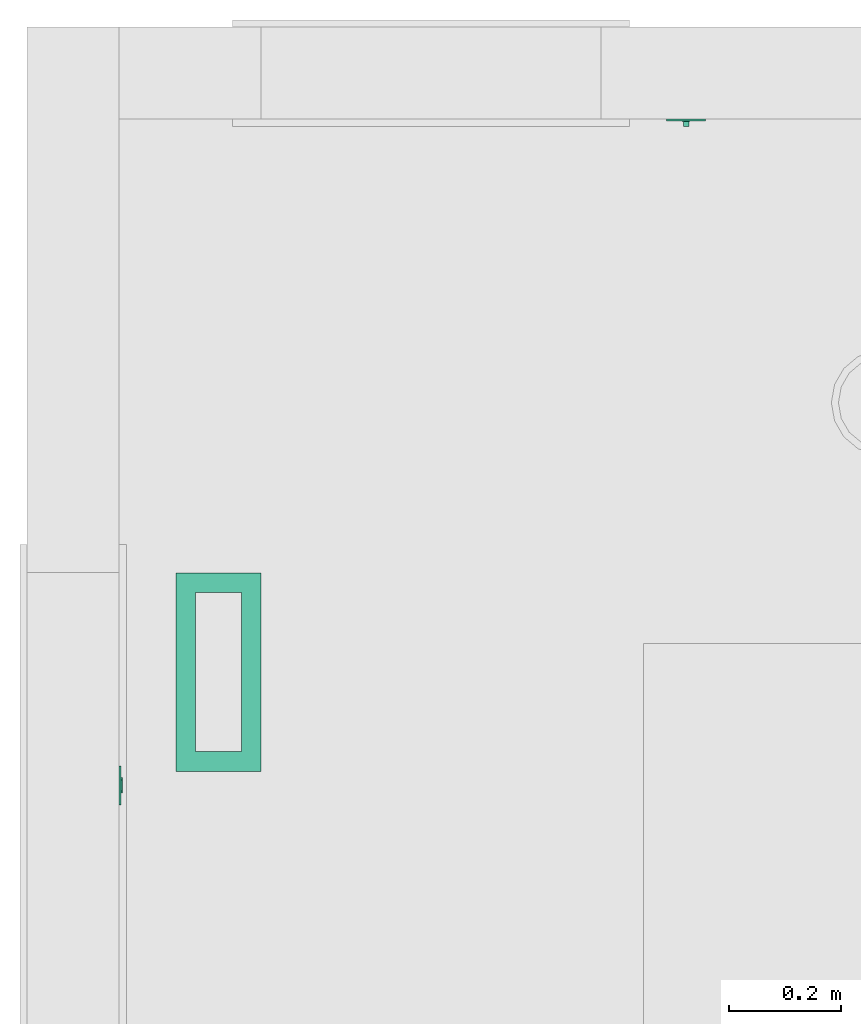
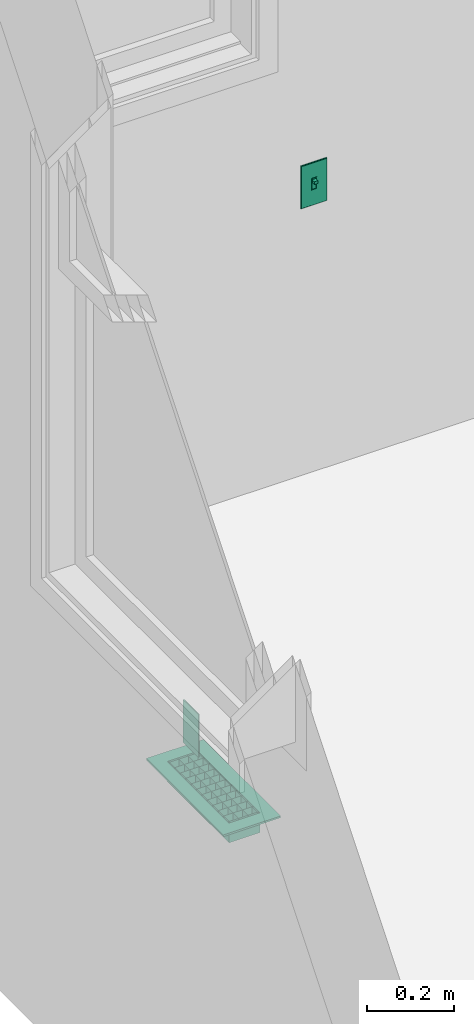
# One storey, part 24 of 103: 2 flow controllers, 1 distribution flow element.
"""IFC2X3 building model written with IfcOpenShell, lengths in inches."""

from ifc_helpers import new_model, entity, si_unit, converted_unit, derived_unit, money_unit, direction, frame, origin_with_axes, place, context, subcontext, project, spatial, open_shell, faceted_brep, surface_model, source, transform, mapped, type_object, element, save


model = new_model("IFC2X3")

# Units and contexts
model_context = context("Model", 3, precision=0.00039370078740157, world=origin_with_axes(), true_north=direction((0.0, 1.0)))
plan_context = context("Plan", 3, precision=0.00039370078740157, world=origin_with_axes(), true_north=direction((0.0, 1.0)))
body_context = subcontext(model_context, "Body", "Model", "MODEL_VIEW")
ifc_project = project(units=[converted_unit("LENGTHUNIT", "INCH", entity("IfcPositiveLengthMeasure", 0.0254), si_unit("LENGTHUNIT", "METRE"), dimensions=[1, 0, 0, 0, 0, 0, 0]), converted_unit("AREAUNIT", "SQUARE_FOOT", entity("IfcPositiveLengthMeasure", 0.09290304), si_unit("AREAUNIT", "SQUARE_METRE"), dimensions=[2, 0, 0, 0, 0, 0, 0]), si_unit("PLANEANGLEUNIT", "RADIAN"), si_unit("SOLIDANGLEUNIT", "STERADIAN"), money_unit("USD"), converted_unit("TIMEUNIT", "Year", entity("IfcTimeMeasure", 31557600.0), si_unit("TIMEUNIT", "SECOND"), dimensions=[0, 0, 1, 0, 0, 0, 0]), si_unit("MASSUNIT", "GRAM", prefix="KILO"), si_unit("THERMODYNAMICTEMPERATUREUNIT", "DEGREE_CELSIUS"), si_unit("LUMINOUSINTENSITYUNIT", "LUMEN"), si_unit("ENERGYUNIT", "JOULE", prefix="MEGA"), derived_unit("SPECIFICHEATCAPACITYUNIT", [(si_unit("ENERGYUNIT", "JOULE"), 1), (si_unit("MASSUNIT", "GRAM", prefix="KILO"), -1), (si_unit("THERMODYNAMICTEMPERATUREUNIT", "KELVIN"), -1)])], contexts=[model_context, plan_context])

# Site, building, storey
site_placement = place(None, origin_with_axes())
site = spatial("IfcSite", under=ifc_project, at=site_placement, Name="Site", CompositionType="ELEMENT")
building_placement = place(site_placement, origin_with_axes())
building = spatial("IfcBuilding", under=site, at=building_placement, Name="Building", CompositionType="ELEMENT")
storey_placement = place(building_placement, frame((0.0, 0.0, 127.9999999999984), z_axis=(0.0, 0.0, 1.0), x_axis=(1.0, 0.0, 0.0)))
storey = spatial("IfcBuildingStorey", under=building, at=storey_placement, Name="Second Floor", CompositionType="ELEMENT", Elevation=128.0)

# Flow controllers
switching_device_type_1 = type_object("IfcSwitchingDeviceType", Name="Outlet 1 US", PredefinedType="NOTDEFINED")
shared_shape_1 = source(origin_with_axes(), body_context, "Body", "Brep", [
    faceted_brep([(0.39370078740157, -0.03444881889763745, -1.18110236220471), (0.5436477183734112, -0.03444881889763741, -0.7086614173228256), (0.5436477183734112, -0.2165354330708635, -0.7086614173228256), (0.39370078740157, -0.2165354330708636, -1.18110236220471), (-0.3937007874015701, -0.03444881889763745, -1.181102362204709), (-0.543647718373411, -0.03444881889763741, -0.7086614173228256), (-0.39370078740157, -0.03444881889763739, -0.2362204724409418), (0.3937007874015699, -0.03444881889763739, -0.2362204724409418), (-0.196850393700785, -0.03444881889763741, -0.7086614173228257), (-0.196850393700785, -0.0344488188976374, -0.4724409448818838), (-0.275590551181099, -0.0344488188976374, -0.4724409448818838), (-0.275590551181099, -0.03444881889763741, -0.7086614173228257), (0.196850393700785, -0.03444881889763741, -0.7086614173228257), (0.275590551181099, -0.03444881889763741, -0.7086614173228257), (0.275590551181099, -0.0344488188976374, -0.4724409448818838), (0.196850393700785, -0.0344488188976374, -0.4724409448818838), (-0.078740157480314, -0.03444881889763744, -1.102362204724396), (0.078740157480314, -0.03444881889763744, -1.102362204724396), (0.078740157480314, -0.03444881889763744, -1.023622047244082), (0.06819097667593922, -0.03444881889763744, -0.9842519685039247), (0.03937007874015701, -0.03444881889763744, -0.9554310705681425), (0.0, -0.03444881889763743, -0.9448818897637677), (-0.03937007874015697, -0.03444881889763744, -0.9554310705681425), (-0.06819097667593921, -0.03444881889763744, -0.9842519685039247), (-0.078740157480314, -0.03444881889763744, -1.023622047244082), (0.3937007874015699, -0.2165354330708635, -0.2362204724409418), (-0.39370078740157, -0.2165354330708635, -0.2362204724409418), (-0.543647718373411, -0.2165354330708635, -0.7086614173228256), (-0.3937007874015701, -0.2165354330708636, -1.181102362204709), (-0.196850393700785, -0.2165354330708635, -0.7086614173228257), (-0.275590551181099, -0.2165354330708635, -0.7086614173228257), (-0.275590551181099, -0.2165354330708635, -0.4724409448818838), (-0.196850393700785, -0.2165354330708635, -0.4724409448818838), (0.196850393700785, -0.2165354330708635, -0.7086614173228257), (0.196850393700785, -0.2165354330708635, -0.4724409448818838), (0.275590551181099, -0.2165354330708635, -0.4724409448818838), (0.275590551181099, -0.2165354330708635, -0.7086614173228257), (-0.078740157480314, -0.2165354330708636, -1.102362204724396), (-0.078740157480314, -0.2165354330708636, -1.023622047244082), (-0.06819097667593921, -0.2165354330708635, -0.9842519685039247), (-0.03937007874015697, -0.2165354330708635, -0.9554310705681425), (0.0, -0.2165354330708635, -0.9448818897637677), (0.03937007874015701, -0.2165354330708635, -0.9554310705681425), (0.06819097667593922, -0.2165354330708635, -0.9842519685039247), (0.078740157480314, -0.2165354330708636, -1.023622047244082), (0.078740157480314, -0.2165354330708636, -1.102362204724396)], [[[0, 1, 2, 3]], [[0, 4, 5, 6, 7, 1], [8, 9, 10, 11], [12, 13, 14, 15], [16, 17, 18, 19, 20, 21, 22, 23, 24]], [[1, 7, 25, 2]], [[3, 2, 25, 26, 27, 28], [29, 30, 31, 32], [33, 34, 35, 36], [37, 38, 39, 40, 41, 42, 43, 44, 45]], [[4, 0, 3, 28]], [[5, 4, 28, 27]], [[6, 5, 27, 26]], [[7, 6, 26, 25]], [[9, 8, 29, 32]], [[10, 9, 32, 31]], [[11, 10, 31, 30]], [[8, 11, 30, 29]], [[13, 12, 33, 36]], [[14, 13, 36, 35]], [[15, 14, 35, 34]], [[12, 15, 34, 33]], [[17, 16, 37, 45]], [[18, 17, 45, 44]], [[19, 18, 44, 43]], [[20, 19, 43, 42]], [[21, 20, 42, 41]], [[22, 21, 41, 40]], [[23, 22, 40, 39]], [[24, 23, 39, 38]], [[16, 24, 38, 37]]]),
    faceted_brep([(0.39370078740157, -0.03444881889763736, 0.2362204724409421), (0.5436477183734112, -0.03444881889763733, 0.7086614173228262), (0.5436477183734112, -0.2165354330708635, 0.7086614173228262), (0.39370078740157, -0.2165354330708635, 0.2362204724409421), (-0.3937007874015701, -0.03444881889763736, 0.2362204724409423), (-0.543647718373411, -0.03444881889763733, 0.7086614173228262), (-0.39370078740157, -0.0344488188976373, 1.18110236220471), (0.3937007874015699, -0.0344488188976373, 1.18110236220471), (-0.196850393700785, -0.03444881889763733, 0.7086614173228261), (-0.196850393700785, -0.03444881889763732, 0.944881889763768), (-0.275590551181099, -0.03444881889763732, 0.944881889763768), (-0.275590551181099, -0.03444881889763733, 0.7086614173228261), (0.196850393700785, -0.03444881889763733, 0.7086614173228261), (0.275590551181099, -0.03444881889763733, 0.7086614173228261), (0.275590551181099, -0.03444881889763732, 0.944881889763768), (0.196850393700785, -0.03444881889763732, 0.944881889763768), (-0.078740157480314, -0.03444881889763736, 0.3149606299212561), (0.078740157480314, -0.03444881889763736, 0.3149606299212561), (0.078740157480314, -0.03444881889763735, 0.3937007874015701), (0.06819097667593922, -0.03444881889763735, 0.4330708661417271), (0.03937007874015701, -0.03444881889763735, 0.4618917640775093), (0.0, -0.03444881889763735, 0.472440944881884), (-0.03937007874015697, -0.03444881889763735, 0.4618917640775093), (-0.06819097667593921, -0.03444881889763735, 0.4330708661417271), (-0.078740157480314, -0.03444881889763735, 0.3937007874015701), (0.3937007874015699, -0.2165354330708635, 1.18110236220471), (-0.39370078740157, -0.2165354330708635, 1.18110236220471), (-0.543647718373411, -0.2165354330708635, 0.7086614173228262), (-0.3937007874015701, -0.2165354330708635, 0.2362204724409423), (-0.196850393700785, -0.2165354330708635, 0.7086614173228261), (-0.275590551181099, -0.2165354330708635, 0.7086614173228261), (-0.275590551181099, -0.2165354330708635, 0.944881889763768), (-0.196850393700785, -0.2165354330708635, 0.944881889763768), (0.196850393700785, -0.2165354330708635, 0.7086614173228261), (0.196850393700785, -0.2165354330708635, 0.944881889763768), (0.275590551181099, -0.2165354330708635, 0.944881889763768), (0.275590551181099, -0.2165354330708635, 0.7086614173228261), (-0.078740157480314, -0.2165354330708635, 0.3149606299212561), (-0.078740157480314, -0.2165354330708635, 0.3937007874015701), (-0.06819097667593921, -0.2165354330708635, 0.4330708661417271), (-0.03937007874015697, -0.2165354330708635, 0.4618917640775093), (0.0, -0.2165354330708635, 0.472440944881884), (0.03937007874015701, -0.2165354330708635, 0.4618917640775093), (0.06819097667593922, -0.2165354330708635, 0.4330708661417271), (0.078740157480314, -0.2165354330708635, 0.3937007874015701), (0.078740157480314, -0.2165354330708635, 0.3149606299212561)], [[[0, 1, 2, 3]], [[0, 4, 5, 6, 7, 1], [8, 9, 10, 11], [12, 13, 14, 15], [16, 17, 18, 19, 20, 21, 22, 23, 24]], [[1, 7, 25, 2]], [[3, 2, 25, 26, 27, 28], [29, 30, 31, 32], [33, 34, 35, 36], [37, 38, 39, 40, 41, 42, 43, 44, 45]], [[4, 0, 3, 28]], [[5, 4, 28, 27]], [[6, 5, 27, 26]], [[7, 6, 26, 25]], [[9, 8, 29, 32]], [[10, 9, 32, 31]], [[11, 10, 31, 30]], [[8, 11, 30, 29]], [[13, 12, 33, 36]], [[14, 13, 36, 35]], [[15, 14, 35, 34]], [[12, 15, 34, 33]], [[17, 16, 37, 45]], [[18, 17, 45, 44]], [[19, 18, 44, 43]], [[20, 19, 43, 42]], [[21, 20, 42, 41]], [[22, 21, 41, 40]], [[23, 22, 40, 39]], [[24, 23, 39, 38]], [[16, 24, 38, 37]]]),
    faceted_brep([(-1.343503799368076, -0.1377952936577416, -2.327755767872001), (1.343503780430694, -0.1377952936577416, -2.327755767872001), (1.343503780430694, -0.1377952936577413, 2.327755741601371), (-1.343503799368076, -0.1377952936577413, 2.327755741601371), (0.39370078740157, -0.1377952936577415, -1.18110236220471), (-0.3937007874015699, -0.1377952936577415, -1.181102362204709), (-0.5436477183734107, -0.1377952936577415, -0.7086614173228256), (-0.39370078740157, -0.1377952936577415, -0.2362204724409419), (0.3937007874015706, -0.1377952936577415, -0.2362204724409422), (0.5436477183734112, -0.1377952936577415, -0.7086614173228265), (-0.39370078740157, -0.1377952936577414, 1.18110236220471), (0.3937007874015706, -0.1377952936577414, 1.18110236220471), (0.5436477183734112, -0.1377952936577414, 0.7086614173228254), (0.39370078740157, -0.1377952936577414, 0.236220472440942), (-0.3937007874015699, -0.1377952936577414, 0.2362204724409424), (-0.5436477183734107, -0.1377952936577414, 0.7086614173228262), (-1.352419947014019, -0.1366214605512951, -2.336671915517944), (1.352419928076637, -0.1366214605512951, -2.336671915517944), (1.352419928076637, -0.1366214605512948, 2.336671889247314), (-1.352419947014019, -0.1366214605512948, 2.336671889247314), (0.39370078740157, -0.03444881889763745, -1.18110236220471), (-0.3937007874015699, -0.03444881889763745, -1.181102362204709), (-0.5436477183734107, -0.03444881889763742, -0.7086614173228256), (-0.39370078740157, -0.03444881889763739, -0.2362204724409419), (0.3937007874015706, -0.03444881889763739, -0.2362204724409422), (0.5436477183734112, -0.03444881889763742, -0.7086614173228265), (-0.39370078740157, -0.0344488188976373, 1.18110236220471), (0.3937007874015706, -0.0344488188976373, 1.18110236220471), (0.5436477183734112, -0.03444881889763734, 0.7086614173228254), (0.39370078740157, -0.03444881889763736, 0.236220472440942), (-0.3937007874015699, -0.03444881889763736, 0.2362204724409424), (-0.5436477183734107, -0.03444881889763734, 0.7086614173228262), (-1.36786294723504, -0.1277054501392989, -2.352114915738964), (1.367862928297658, -0.1277054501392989, -2.352114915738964), (1.367862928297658, -0.1277054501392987, 2.352114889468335), (-1.36786294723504, -0.1277054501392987, 2.352114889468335), (-1.376778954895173, -0.1122624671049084, -2.361030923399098), (1.376778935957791, -0.1122624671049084, -2.361030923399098), (1.376778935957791, -0.1122624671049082, 2.361030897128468), (-1.376778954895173, -0.1122624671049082, 2.361030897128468), (-1.377952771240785, -0.1033464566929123, -2.362204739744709), (1.377952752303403, -0.1033464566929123, -2.362204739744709), (1.377952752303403, -0.103346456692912, 2.36220471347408), (-1.377952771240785, -0.103346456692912, 2.36220471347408), (-1.377952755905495, 0.0, -2.36220472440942), (1.377952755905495, 0.0, -2.36220472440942), (1.377952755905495, 0.0, 2.36220472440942), (-1.377952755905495, 0.0, 2.36220472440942)], [[[0, 1, 2, 3], [4, 5, 6, 7, 8, 9], [10, 11, 12, 13, 14, 15]], [[1, 0, 16, 17]], [[2, 1, 17, 18]], [[3, 2, 18, 19]], [[0, 3, 19, 16]], [[4, 20, 21, 5]], [[5, 21, 22, 6]], [[6, 22, 23, 7]], [[7, 23, 24, 8]], [[8, 24, 25, 9]], [[9, 25, 20, 4]], [[11, 10, 26, 27]], [[12, 11, 27, 28]], [[13, 12, 28, 29]], [[14, 13, 29, 30]], [[15, 14, 30, 31]], [[10, 15, 31, 26]], [[17, 16, 32, 33]], [[18, 17, 33, 34]], [[19, 18, 34, 35]], [[16, 19, 35, 32]], [[22, 21, 20, 25, 24, 23]], [[28, 27, 26, 31, 30, 29]], [[33, 32, 36, 37]], [[34, 33, 37, 38]], [[35, 34, 38, 39]], [[32, 35, 39, 36]], [[37, 36, 40, 41]], [[38, 37, 41, 42]], [[39, 38, 42, 43]], [[36, 39, 43, 40]], [[41, 40, 44, 45]], [[42, 41, 45, 46]], [[43, 42, 46, 47]], [[40, 43, 47, 44]], [[46, 45, 44, 47]]]),
])
flow_controller_1_placement = place(storey_placement, frame((-255.7499999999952, 547.9942103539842, 13.99803149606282), z_axis=(0.0, 0.0, 1.0), x_axis=(0.0, 1.0, 0.0)))
element("IfcFlowController", 1, at=flow_controller_1_placement, inside=storey, type_object=switching_device_type_1, Name="FU - 029", context=body_context, shape_type="MappedRepresentation", body=[
    mapped(shared_shape_1, transform((0.0, 0.0, 0.0))),
])
switching_device_type_2 = type_object("IfcSwitchingDeviceType", Name="Switch US", PredefinedType="NOTDEFINED")
shared_shape_2 = source(origin_with_axes(), body_context, "Body", "Brep", [
    faceted_brep([(0.196850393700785, 0.0, -0.5905511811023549), (-0.196850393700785, 0.0, -0.5905511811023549), (-0.196850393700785, 0.0, 0.5905511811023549), (0.196850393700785, 0.0, 0.5905511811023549), (0.196850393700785, -0.1033464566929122, -0.5905511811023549), (-0.196850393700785, -0.1033464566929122, -0.5905511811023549), (-0.196850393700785, -0.1033464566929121, 0.157480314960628), (-0.196850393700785, -0.4970472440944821, 0.1574803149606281), (-0.196850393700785, -0.4970472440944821, 0.472440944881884), (-0.196850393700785, -0.1033464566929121, 0.472440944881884), (-0.196850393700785, -0.1033464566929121, 0.5905511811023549), (0.196850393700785, -0.103346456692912, 0.5905511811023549), (0.196850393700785, -0.1033464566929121, 0.472440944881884), (0.196850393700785, -0.4970472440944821, 0.472440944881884), (0.196850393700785, -0.4970472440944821, 0.1574803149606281), (0.196850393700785, -0.1033464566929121, 0.157480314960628)], [[[0, 1, 2, 3]], [[4, 5, 1, 0]], [[1, 5, 6, 7, 8, 9, 10, 2]], [[3, 2, 10, 11]], [[0, 3, 11, 12, 13, 14, 15, 4]], [[15, 6, 5, 4]], [[14, 7, 6, 15]], [[13, 8, 7, 14]], [[12, 9, 8, 13]], [[11, 10, 9, 12]]]),
    faceted_brep([(0.275590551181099, 0.0, -0.669291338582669), (0.275590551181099, -0.1771653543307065, -0.669291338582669), (-0.275590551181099, -0.1771653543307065, -0.669291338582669), (-0.275590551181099, 0.0, -0.669291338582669), (0.275590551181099, 0.0, 0.669291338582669), (0.275590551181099, -0.1771653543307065, 0.669291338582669), (-0.275590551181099, -0.1771653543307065, 0.669291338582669), (0.196850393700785, -0.1771653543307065, -0.5905511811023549), (-0.196850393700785, -0.1771653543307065, -0.5905511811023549), (-0.196850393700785, -0.1771653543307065, 0.5905511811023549), (0.196850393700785, -0.1771653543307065, 0.5905511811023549), (-0.275590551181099, 0.0, 0.669291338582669), (0.196850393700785, 0.0, -0.5905511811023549), (0.196850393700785, 0.0, 0.5905511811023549), (-0.196850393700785, 0.0, 0.5905511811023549), (-0.196850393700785, 0.0, -0.5905511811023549)], [[[0, 1, 2, 3]], [[4, 5, 1, 0]], [[1, 5, 6, 2], [7, 8, 9, 10]], [[3, 2, 6, 11]], [[0, 3, 11, 4], [12, 13, 14, 15]], [[11, 6, 5, 4]], [[15, 8, 7, 12]], [[14, 9, 8, 15]], [[13, 10, 9, 14]], [[12, 7, 10, 13]]]),
    faceted_brep([(1.343503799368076, -0.1377952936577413, 2.32775574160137), (-1.343503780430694, -0.1377952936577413, 2.32775574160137), (-1.343503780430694, -0.1377952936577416, -2.327755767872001), (1.343503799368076, -0.1377952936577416, -2.327755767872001), (0.275590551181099, -0.1377952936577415, -0.669291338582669), (-0.275590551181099, -0.1377952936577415, -0.669291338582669), (-0.275590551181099, -0.1377952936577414, 0.669291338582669), (0.275590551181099, -0.1377952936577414, 0.669291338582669), (1.352419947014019, -0.1366214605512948, 2.336671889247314), (-1.352419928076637, -0.1366214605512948, 2.336671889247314), (-1.352419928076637, -0.1366214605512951, -2.336671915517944), (1.352419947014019, -0.1366214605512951, -2.336671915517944), (-0.275590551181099, 0.0, -0.669291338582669), (0.275590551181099, 0.0, -0.669291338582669), (-0.275590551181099, 0.0, 0.669291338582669), (0.275590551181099, 0.0, 0.669291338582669), (1.36786294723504, -0.1277054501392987, 2.352114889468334), (-1.367862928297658, -0.1277054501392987, 2.352114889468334), (-1.367862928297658, -0.1277054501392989, -2.352114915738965), (1.36786294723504, -0.1277054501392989, -2.352114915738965), (1.377952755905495, 0.0, 2.36220472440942), (1.377952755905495, 0.0, -2.36220472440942), (-1.377952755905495, 0.0, -2.36220472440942), (-1.377952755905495, 0.0, 2.36220472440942), (1.376778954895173, -0.1122624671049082, 2.361030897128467), (-1.376778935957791, -0.1122624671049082, 2.361030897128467), (-1.376778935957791, -0.1122624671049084, -2.361030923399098), (1.376778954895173, -0.1122624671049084, -2.361030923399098), (1.377952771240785, -0.103346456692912, 2.362204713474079), (1.377952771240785, -0.1033464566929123, -2.36220473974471), (-1.377952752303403, -0.1033464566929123, -2.36220473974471), (-1.377952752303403, -0.103346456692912, 2.362204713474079)], [[[0, 1, 2, 3], [4, 5, 6, 7]], [[8, 9, 1, 0]], [[9, 10, 2, 1]], [[10, 11, 3, 2]], [[11, 8, 0, 3]], [[12, 5, 4, 13]], [[14, 6, 5, 12]], [[15, 7, 6, 14]], [[13, 4, 7, 15]], [[16, 17, 9, 8]], [[17, 18, 10, 9]], [[18, 19, 11, 10]], [[19, 16, 8, 11]], [[20, 21, 22, 23], [13, 15, 14, 12]], [[24, 25, 17, 16]], [[25, 26, 18, 17]], [[26, 27, 19, 18]], [[27, 24, 16, 19]], [[21, 20, 28, 29]], [[22, 21, 29, 30]], [[23, 22, 30, 31]], [[20, 23, 31, 28]], [[28, 31, 25, 24]], [[31, 30, 26, 25]], [[30, 29, 27, 26]], [[29, 28, 24, 27]]]),
])
flow_controller_2_placement = place(storey_placement, frame((-215.7499999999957, 594.9999999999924, 31.99999999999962), z_axis=(0.0, 0.0, 1.0), x_axis=(1.0, 0.0, 0.0)))
element("IfcFlowController", 2, at=flow_controller_2_placement, inside=storey, type_object=switching_device_type_2, Name="OBJ-09", context=body_context, shape_type="MappedRepresentation", body=[
    mapped(shared_shape_2, transform((0.0, 0.0, 0.0))),
])

# Distribution flow element
valve_type = type_object("IfcValveType", Name="Rect Floor Register", PredefinedType="NOTDEFINED")
shared_shape_3 = source(origin_with_axes(), body_context, "Body", "SurfaceModel", [
    faceted_brep([(7.002952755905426, 3.002952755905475, 0.0), (-7.002952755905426, 3.002952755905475, 0.0), (-7.002952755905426, 3.002952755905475, 0.196850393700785), (7.002952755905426, 3.002952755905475, 0.196850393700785), (7.002952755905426, -3.002952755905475, 0.0), (-7.002952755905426, -3.002952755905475, 0.0), (5.624999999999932, 1.62499999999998, 0.0), (-5.624999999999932, 1.62499999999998, 0.0), (-5.624999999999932, -1.62499999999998, 0.0), (5.624999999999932, -1.62499999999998, 0.0), (-7.002952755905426, -3.002952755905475, 0.196850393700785), (7.002952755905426, -3.002952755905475, 0.196850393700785), (5.624999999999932, 1.62499999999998, 0.196850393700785), (5.624999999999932, -1.62499999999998, 0.196850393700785), (-5.624999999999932, -1.62499999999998, 0.196850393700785), (-5.624999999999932, 1.62499999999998, 0.196850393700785)], [[[0, 1, 2, 3]], [[0, 4, 5, 1], [6, 7, 8, 9]], [[1, 5, 10, 2]], [[3, 2, 10, 11], [12, 13, 14, 15]], [[4, 0, 3, 11]], [[5, 4, 11, 10]], [[7, 6, 12, 15]], [[8, 7, 15, 14]], [[9, 8, 14, 13]], [[6, 9, 13, 12]]]),
    surface_model("IfcShellBasedSurfaceModel", [(-5.585629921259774, 1.476377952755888, -0.78740157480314), (5.585629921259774, 1.476377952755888, -0.78740157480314), (5.585629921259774, 1.476377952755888, 0.196850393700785), (-5.585629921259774, 1.476377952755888, 0.196850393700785)], [open_shell([[[0, 1, 2, 3]]])]),
    surface_model("IfcShellBasedSurfaceModel", [(-5.585629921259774, 0.4921259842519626, -0.78740157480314), (5.585629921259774, 0.4921259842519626, -0.78740157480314), (5.585629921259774, 0.4921259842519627, 0.196850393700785), (-5.585629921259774, 0.4921259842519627, 0.196850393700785)], [open_shell([[[0, 1, 2, 3]]])]),
    surface_model("IfcShellBasedSurfaceModel", [(-5.585629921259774, -0.4921259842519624, -0.78740157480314), (5.585629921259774, -0.4921259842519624, -0.78740157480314), (5.585629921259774, -0.4921259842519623, 0.196850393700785), (-5.585629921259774, -0.4921259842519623, 0.196850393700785)], [open_shell([[[0, 1, 2, 3]]])]),
    surface_model("IfcShellBasedSurfaceModel", [(-5.585629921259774, -1.476377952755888, -0.78740157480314), (5.585629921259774, -1.476377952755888, -0.78740157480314), (5.585629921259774, -1.476377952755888, 0.196850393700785), (-5.585629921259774, -1.476377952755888, 0.196850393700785)], [open_shell([[[0, 1, 2, 3]]])]),
    surface_model("IfcShellBasedSurfaceModel", [(5.413385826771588, -1.585629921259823, -0.78740157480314), (5.413385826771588, 1.585629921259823, -0.78740157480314), (5.413385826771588, 1.585629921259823, 0.196850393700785), (5.413385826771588, -1.585629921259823, 0.196850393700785)], [open_shell([[[0, 1, 2, 3]]])]),
    surface_model("IfcShellBasedSurfaceModel", [(4.429133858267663, -1.585629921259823, -0.78740157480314), (4.429133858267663, 1.585629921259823, -0.78740157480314), (4.429133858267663, 1.585629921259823, 0.196850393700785), (4.429133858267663, -1.585629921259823, 0.196850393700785)], [open_shell([[[0, 1, 2, 3]]])]),
    surface_model("IfcShellBasedSurfaceModel", [(3.444881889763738, -1.585629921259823, -0.78740157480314), (3.444881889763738, 1.585629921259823, -0.78740157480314), (3.444881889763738, 1.585629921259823, 0.196850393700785), (3.444881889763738, -1.585629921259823, 0.196850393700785)], [open_shell([[[0, 1, 2, 3]]])]),
    surface_model("IfcShellBasedSurfaceModel", [(2.460629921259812, -1.585629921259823, -0.78740157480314), (2.460629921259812, 1.585629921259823, -0.78740157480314), (2.460629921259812, 1.585629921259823, 0.196850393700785), (2.460629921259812, -1.585629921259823, 0.196850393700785)], [open_shell([[[0, 1, 2, 3]]])]),
    surface_model("IfcShellBasedSurfaceModel", [(1.476377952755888, -1.585629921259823, -0.78740157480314), (1.476377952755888, 1.585629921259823, -0.78740157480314), (1.476377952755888, 1.585629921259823, 0.196850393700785), (1.476377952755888, -1.585629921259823, 0.196850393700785)], [open_shell([[[0, 1, 2, 3]]])]),
    surface_model("IfcShellBasedSurfaceModel", [(0.4921259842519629, -1.585629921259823, -0.78740157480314), (0.4921259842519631, 1.585629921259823, -0.78740157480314), (0.4921259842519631, 1.585629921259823, 0.196850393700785), (0.4921259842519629, -1.585629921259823, 0.196850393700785)], [open_shell([[[0, 1, 2, 3]]])]),
    surface_model("IfcShellBasedSurfaceModel", [(-0.4921259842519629, -1.585629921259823, -0.78740157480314), (-0.4921259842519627, 1.585629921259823, -0.78740157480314), (-0.4921259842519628, 1.585629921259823, 0.196850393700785), (-0.492125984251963, -1.585629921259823, 0.196850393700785)], [open_shell([[[0, 1, 2, 3]]])]),
    surface_model("IfcShellBasedSurfaceModel", [(-1.476377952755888, -1.585629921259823, -0.78740157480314), (-1.476377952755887, 1.585629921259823, -0.78740157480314), (-1.476377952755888, 1.585629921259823, 0.196850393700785), (-1.476377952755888, -1.585629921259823, 0.196850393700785)], [open_shell([[[0, 1, 2, 3]]])]),
    surface_model("IfcShellBasedSurfaceModel", [(-2.460629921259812, -1.585629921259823, -0.78740157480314), (-2.460629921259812, 1.585629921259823, -0.78740157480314), (-2.460629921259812, 1.585629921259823, 0.196850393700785), (-2.460629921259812, -1.585629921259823, 0.196850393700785)], [open_shell([[[0, 1, 2, 3]]])]),
    surface_model("IfcShellBasedSurfaceModel", [(-3.444881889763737, -1.585629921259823, -0.78740157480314), (-3.444881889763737, 1.585629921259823, -0.78740157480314), (-3.444881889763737, 1.585629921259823, 0.196850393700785), (-3.444881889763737, -1.585629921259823, 0.196850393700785)], [open_shell([[[0, 1, 2, 3]]])]),
    surface_model("IfcShellBasedSurfaceModel", [(-4.429133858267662, -1.585629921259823, -0.78740157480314), (-4.429133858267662, 1.585629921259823, -0.78740157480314), (-4.429133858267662, 1.585629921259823, 0.196850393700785), (-4.429133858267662, -1.585629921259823, 0.196850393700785)], [open_shell([[[0, 1, 2, 3]]])]),
    surface_model("IfcShellBasedSurfaceModel", [(-5.413385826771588, -1.585629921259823, -0.78740157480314), (-5.413385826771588, 1.585629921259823, -0.78740157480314), (-5.413385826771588, 1.585629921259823, 0.196850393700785), (-5.413385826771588, -1.585629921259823, 0.196850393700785)], [open_shell([[[0, 1, 2, 3]]])]),
    surface_model("IfcShellBasedSurfaceModel", [(-5.624999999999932, -1.62499999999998, 0.0), (-5.624999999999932, 1.62499999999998, 0.0), (-5.624999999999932, 1.62499999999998, -1.999999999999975), (-5.624999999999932, -1.62499999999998, -1.999999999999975), (5.624999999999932, 1.62499999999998, 0.0), (5.624999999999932, 1.62499999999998, -1.999999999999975), (5.624999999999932, -1.62499999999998, 0.0), (5.624999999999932, -1.62499999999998, -1.999999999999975)], [open_shell([[[0, 1, 2, 3]], [[1, 4, 5, 2]], [[6, 0, 3, 7]], [[4, 6, 7, 5]]])]),
])
distribution_flow_element_placement = place(storey_placement, frame((-248.7470472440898, 555.9943296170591, 0.0), z_axis=(0.0, 0.0, 1.0), x_axis=(0.0, -1.0, 0.0)))
element("IfcDistributionFlowElement", 3, at=distribution_flow_element_placement, inside=storey, type_object=valve_type, Name="FU - 027", context=body_context, shape_type="MappedRepresentation", body=[
    mapped(shared_shape_3, transform((0.0, 0.0, 0.0))),
])

save(model, "model.ifc")
